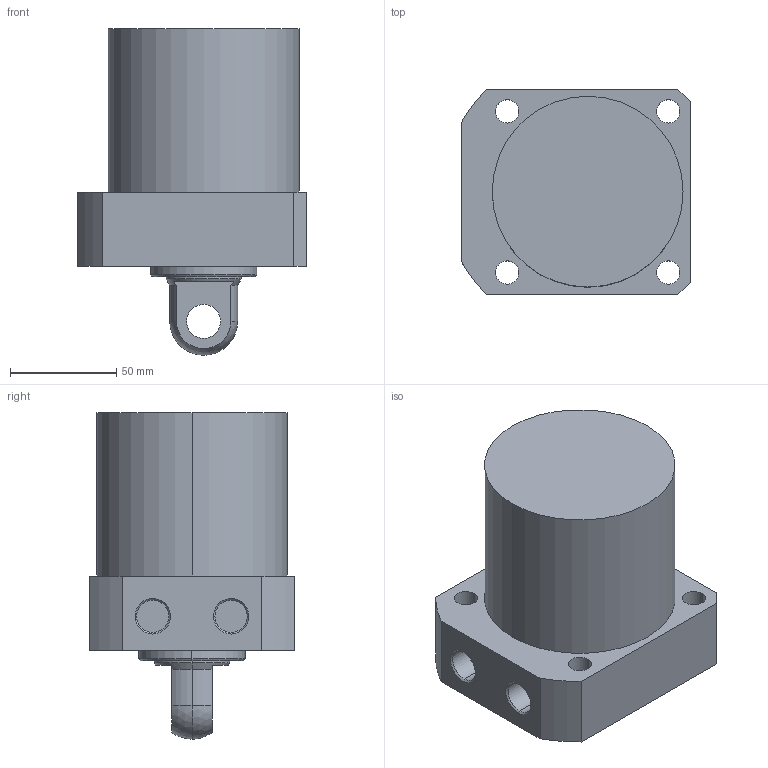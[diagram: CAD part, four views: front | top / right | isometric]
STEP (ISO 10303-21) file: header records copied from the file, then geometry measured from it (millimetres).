
FILE_DESCRIPTION (( 'STEP AP203' ), '1' );
FILE_NAME ('CLLR-090CP-055.STEP', '2019-12-19T03:27:47', ( '' ), ( '' ), 'SwSTEP 2.0', 'SolidWorks 2015', '' );
FILE_SCHEMA (( 'CONFIG_CONTROL_DESIGN' ));
Length unit declared in the file: millimetre
Products named in the file (1): CLLR-090CP-055
Bounding box: 108 x 97 x 154 mm (x, y, z)
Volume: 852324.8 mm3; surface area: 66470.8 mm2
Topology: 1 solids, 1 shells, 57 faces, 135 edges, 87 vertices
Faces by surface type: cylinder 29, plane 18, cone 8, sphere 2
Entity records: 1770 total; most frequent: DIRECTION 319, CARTESIAN_POINT 292, ORIENTED_EDGE 270, EDGE_CURVE 135, AXIS2_PLACEMENT_3D 130, VERTEX_POINT 87, EDGE_LOOP 74, CIRCLE 72
